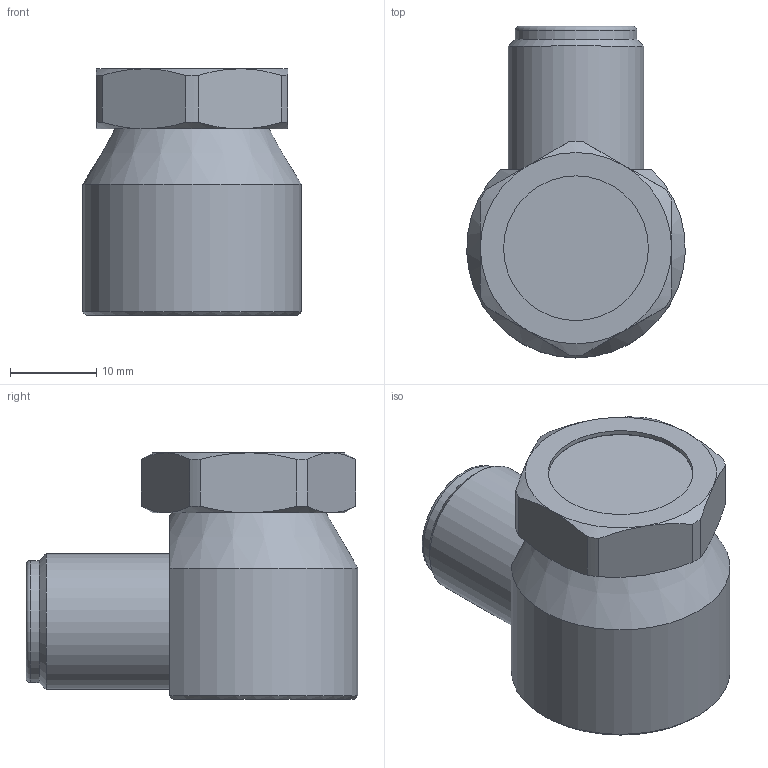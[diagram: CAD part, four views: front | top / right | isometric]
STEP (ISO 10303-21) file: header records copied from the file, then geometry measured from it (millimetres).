
FILE_DESCRIPTION(/* description */ (''),/* implementation_level */ '2;1');
FILE_NAME(/* name */ 'C:\Users\jfriend\Desktop\----Step files\Meredith Christman\607A01\607A01.stp',/* time_stamp */ '2019-12-11T10:31:50-05:00',/* author */ ('jfriend'),/* organization */ (''),/* preprocessor_version */ 'ST-DEVELOPER v17',/* originating_system */ 'Autodesk Inventor 2019',/* authorisation */ '');
FILE_SCHEMA (('AUTOMOTIVE_DESIGN { 1 0 10303 214 3 1 1 }'));
Length unit declared in the file: inch
Products named in the file (1): 607A01
Bounding box: 25.38 x 38.53 x 28.63 mm (x, y, z)
Volume: 13754 mm3; surface area: 5443.7 mm2
Topology: 1 solids, 1 shells, 77 faces, 191 edges, 127 vertices
Faces by surface type: cylinder 25, plane 23, cone 21, torus 6, sphere 2
Full cylindrical faces by diameter (mm): 0.762 x1, 1.016 x2, 1.549 x2, 3.188 x2, 11.684 x1, 14.148 x1, 15.748 x1, 16.688 x1, 16.815 x1, 17.272 x1, 17.45 x1
Entity records: 2503 total; most frequent: CARTESIAN_POINT 520, DIRECTION 418, ORIENTED_EDGE 374, EDGE_CURVE 187, AXIS2_PLACEMENT_3D 185, VERTEX_POINT 127, CIRCLE 107, EDGE_LOOP 94
